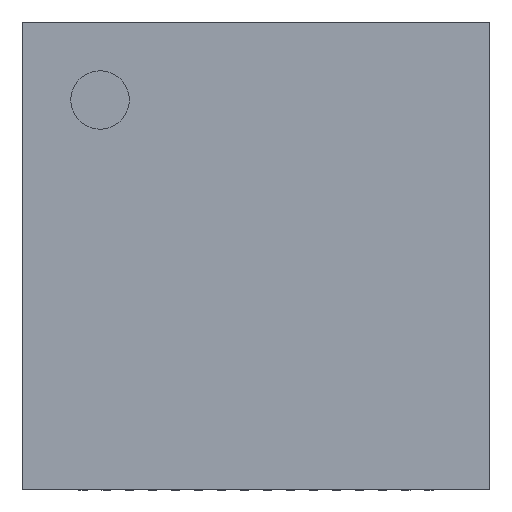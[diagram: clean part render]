
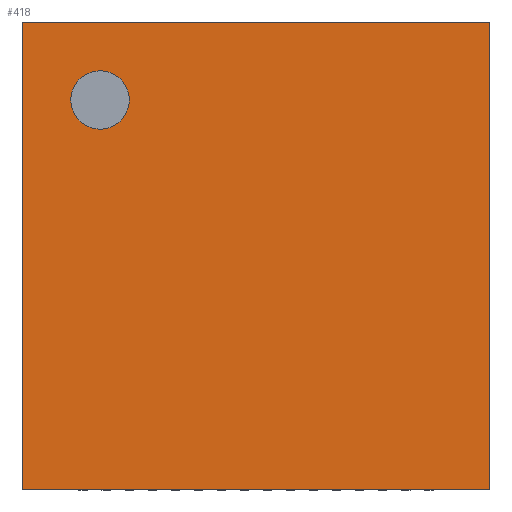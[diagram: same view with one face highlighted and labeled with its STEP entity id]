
A CAD part, top view. The second image highlights one B-rep face of the part: STEP entity #418.
In plain terms, the highlighted planar face has unit normal (0, 0, 1).
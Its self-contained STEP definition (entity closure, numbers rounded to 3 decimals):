
#354 = VERTEX_POINT('',#355);
#355 = CARTESIAN_POINT('',(0.,0.,0.8));
#370 = VERTEX_POINT('',#371);
#371 = CARTESIAN_POINT('',(0.,7.1,0.8));
#377 = EDGE_CURVE('',#354,#370,#378,.T.);
#378 = LINE('',#379,#380);
#379 = CARTESIAN_POINT('',(0.,0.,0.8));
#380 = VECTOR('',#381,1.);
#381 = DIRECTION('',(0.,1.,0.));
#400 = EDGE_CURVE('',#354,#401,#403,.T.);
#401 = VERTEX_POINT('',#402);
#402 = CARTESIAN_POINT('',(7.1,0.,0.8));
#403 = LINE('',#404,#405);
#404 = CARTESIAN_POINT('',(0.,0.,0.8));
#405 = VECTOR('',#406,1.);
#406 = DIRECTION('',(1.,0.,0.));
#418 = ADVANCED_FACE('',(#419,#437),#448,.T.);
#419 = FACE_BOUND('',#420,.T.);
#420 = EDGE_LOOP('',(#421,#422,#423,#431));
#421 = ORIENTED_EDGE('',*,*,#377,.F.);
#422 = ORIENTED_EDGE('',*,*,#400,.T.);
#423 = ORIENTED_EDGE('',*,*,#424,.T.);
#424 = EDGE_CURVE('',#401,#425,#427,.T.);
#425 = VERTEX_POINT('',#426);
#426 = CARTESIAN_POINT('',(7.1,7.1,0.8));
#427 = LINE('',#428,#429);
#428 = CARTESIAN_POINT('',(7.1,0.,0.8));
#429 = VECTOR('',#430,1.);
#430 = DIRECTION('',(0.,1.,0.));
#431 = ORIENTED_EDGE('',*,*,#432,.F.);
#432 = EDGE_CURVE('',#370,#425,#433,.T.);
#433 = LINE('',#434,#435);
#434 = CARTESIAN_POINT('',(0.,7.1,0.8));
#435 = VECTOR('',#436,1.);
#436 = DIRECTION('',(1.,0.,0.));
#437 = FACE_BOUND('',#438,.T.);
#438 = EDGE_LOOP('',(#439));
#439 = ORIENTED_EDGE('',*,*,#440,.F.);
#440 = EDGE_CURVE('',#441,#441,#443,.T.);
#441 = VERTEX_POINT('',#442);
#442 = CARTESIAN_POINT('',(1.627,5.917,0.8));
#443 = CIRCLE('',#444,0.444);
#444 = AXIS2_PLACEMENT_3D('',#445,#446,#447);
#445 = CARTESIAN_POINT('',(1.183,5.917,0.8));
#446 = DIRECTION('',(0.,0.,1.));
#447 = DIRECTION('',(1.,0.,0.));
#448 = PLANE('',#449);
#449 = AXIS2_PLACEMENT_3D('',#450,#451,#452);
#450 = CARTESIAN_POINT('',(0.,0.,0.8));
#451 = DIRECTION('',(0.,0.,1.));
#452 = DIRECTION('',(1.,0.,0.));
